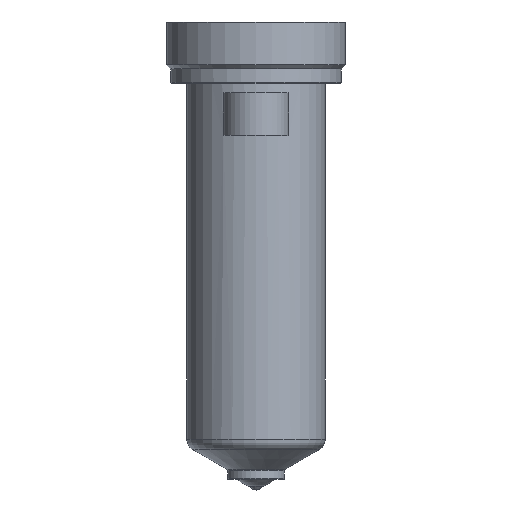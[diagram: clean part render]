
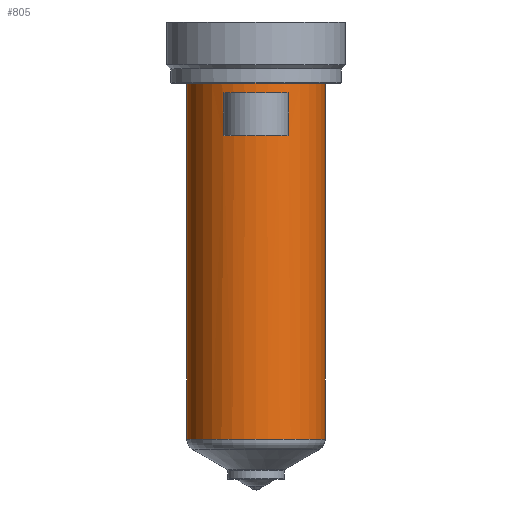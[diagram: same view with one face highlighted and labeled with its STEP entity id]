
A CAD part, top view. The second image highlights one B-rep face of the part: STEP entity #805.
In plain terms, the highlighted cylindrical face has radius 17 mm (diameter 34 mm), a partial arc.
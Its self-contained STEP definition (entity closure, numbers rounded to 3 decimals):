
#191=DIRECTION('',(0.,-1.,0.));
#192=VECTOR('',#191,87.506);
#193=CARTESIAN_POINT('',(17.,0.,0.));
#194=LINE('',#193,#192);
#195=CARTESIAN_POINT('',(0.,-87.506,0.));
#196=DIRECTION('',(0.,1.,0.));
#197=DIRECTION('',(-1.,0.,0.));
#198=AXIS2_PLACEMENT_3D('',#195,#196,#197);
#200=DIRECTION('',(0.,1.,0.));
#201=VECTOR('',#200,87.506);
#202=CARTESIAN_POINT('',(-17.,-87.506,0.));
#203=LINE('',#202,#201);
#204=CARTESIAN_POINT('',(0.,0.,0.));
#205=DIRECTION('',(0.,1.,0.));
#206=DIRECTION('',(-1.,0.,0.));
#207=AXIS2_PLACEMENT_3D('',#204,#205,#206);
#371=DIRECTION('',(0.,1.,0.));
#372=VECTOR('',#371,10.5);
#373=CARTESIAN_POINT('',(-8.,-13.,15.));
#374=LINE('',#373,#372);
#375=CARTESIAN_POINT('',(0.,-13.,0.));
#376=DIRECTION('',(0.,1.,0.));
#377=DIRECTION('',(-0.471,0.,0.882));
#378=AXIS2_PLACEMENT_3D('',#375,#376,#377);
#401=CARTESIAN_POINT('',(0.,-2.5,0.));
#402=DIRECTION('',(0.,-1.,0.));
#403=DIRECTION('',(0.471,0.,0.882));
#404=AXIS2_PLACEMENT_3D('',#401,#402,#403);
#419=DIRECTION('',(0.,1.,0.));
#420=VECTOR('',#419,10.5);
#421=CARTESIAN_POINT('',(8.,-13.,15.));
#422=LINE('',#421,#420);
#480=CARTESIAN_POINT('',(-17.,0.,0.));
#481=CARTESIAN_POINT('',(17.,0.,0.));
#482=VERTEX_POINT('',#480);
#483=VERTEX_POINT('',#481);
#492=CARTESIAN_POINT('',(-8.,-2.5,15.));
#493=VERTEX_POINT('',#492);
#494=CARTESIAN_POINT('',(8.,-2.5,15.));
#495=VERTEX_POINT('',#494);
#532=CARTESIAN_POINT('',(17.,-87.506,0.));
#533=VERTEX_POINT('',#532);
#542=CARTESIAN_POINT('',(-17.,-87.506,0.));
#543=VERTEX_POINT('',#542);
#564=CARTESIAN_POINT('',(-8.,-13.,15.));
#565=CARTESIAN_POINT('',(8.,-13.,15.));
#566=VERTEX_POINT('',#564);
#567=VERTEX_POINT('',#565);
#783=CARTESIAN_POINT('',(0.,16.4,0.));
#784=DIRECTION('',(0.,-1.,0.));
#785=DIRECTION('',(-1.,0.,0.));
#786=AXIS2_PLACEMENT_3D('',#783,#784,#785);
#787=CYLINDRICAL_SURFACE('',#786,17.);
#788=ORIENTED_EDGE('',*,*,#777,.T.);
#790=ORIENTED_EDGE('',*,*,#789,.F.);
#791=ORIENTED_EDGE('',*,*,#773,.T.);
#792=ORIENTED_EDGE('',*,*,#763,.T.);
#793=EDGE_LOOP('',(#788,#790,#791,#792));
#794=FACE_OUTER_BOUND('',#793,.F.);
#796=ORIENTED_EDGE('',*,*,#795,.F.);
#798=ORIENTED_EDGE('',*,*,#797,.T.);
#800=ORIENTED_EDGE('',*,*,#799,.T.);
#802=ORIENTED_EDGE('',*,*,#801,.T.);
#803=EDGE_LOOP('',(#796,#798,#800,#802));
#804=FACE_BOUND('',#803,.F.);
#805=ADVANCED_FACE('',(#794,#804),#787,.T.);
#199=CIRCLE('',#198,17.);
#208=CIRCLE('',#207,17.);
#379=CIRCLE('',#378,17.);
#405=CIRCLE('',#404,17.);
#763=EDGE_CURVE('',#482,#483,#208,.T.);
#773=EDGE_CURVE('',#543,#482,#203,.T.);
#777=EDGE_CURVE('',#483,#533,#194,.T.);
#789=EDGE_CURVE('',#543,#533,#199,.T.);
#795=EDGE_CURVE('',#566,#493,#374,.T.);
#797=EDGE_CURVE('',#566,#567,#379,.T.);
#799=EDGE_CURVE('',#567,#495,#422,.T.);
#801=EDGE_CURVE('',#495,#493,#405,.T.);
